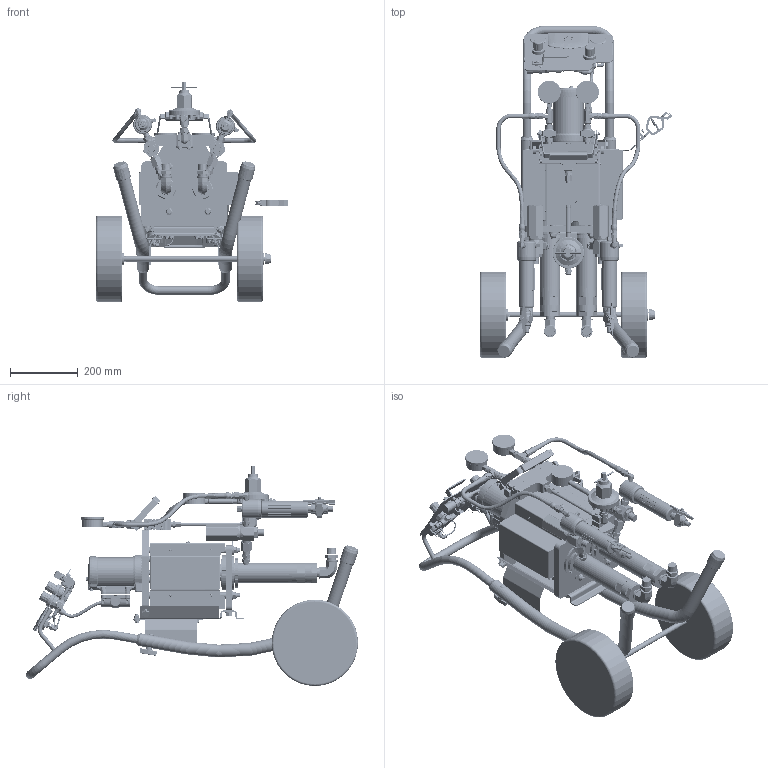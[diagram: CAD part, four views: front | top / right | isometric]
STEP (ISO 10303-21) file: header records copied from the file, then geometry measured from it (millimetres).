
FILE_DESCRIPTION((''),'2;1');
FILE_NAME('24V868-EN-L_PRT','2019-12-31T18:26:16',('qusrh3'),(''),'CREO PARAMETRIC BY PTC INC, 2019030','CREO PARAMETRIC BY PTC INC, 2019030','');
FILE_SCHEMA(('CONFIG_CONTROL_DESIGN'));
Products named in the file (1): 24V868-EN-L_PRT
Bounding box: 568.49 x 981.46 x 650.47 mm (x, y, z)
Surface area: 2868650 mm2 (no closed solid volume)
Topology: 0 solids, 569 shells, 6110 faces, 17104 edges, 11169 vertices
Faces by surface type: plane 2367, cylinder 1834, cone 999, bspline 508, torus 331, sphere 52, extrusion 19
Entity records: 260191 total; most frequent: CARTESIAN_POINT 114069, DIRECTION 29127, ORIENTED_EDGE 29064, EDGE_CURVE 17055, VERTEX_POINT 11169, AXIS2_PLACEMENT_3D 10892, VECTOR 7343, LINE 7324
